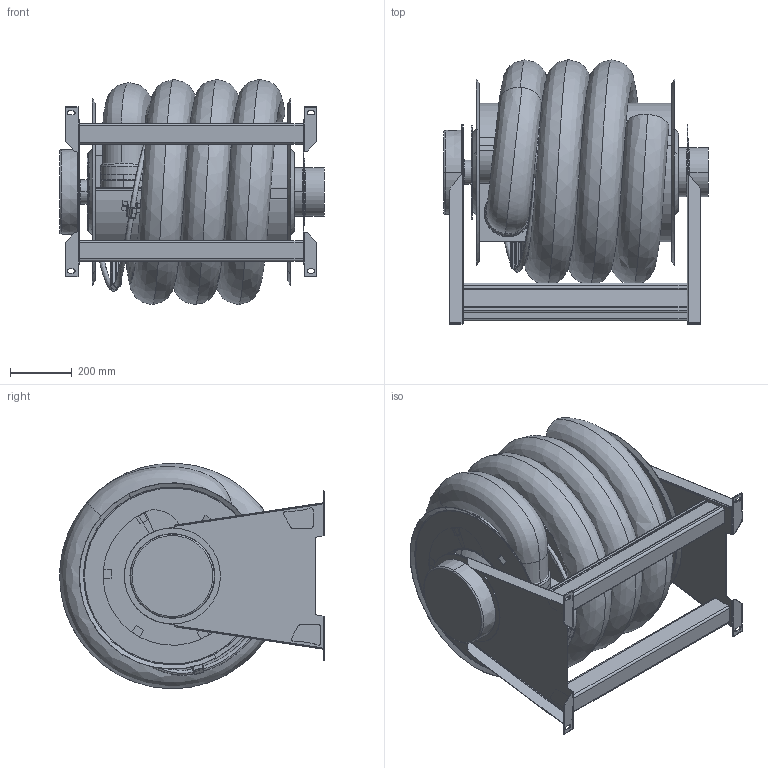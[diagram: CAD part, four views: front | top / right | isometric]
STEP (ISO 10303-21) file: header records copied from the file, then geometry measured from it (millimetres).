
FILE_DESCRIPTION((''),'2;1');
FILE_NAME('ASE_65_125-75_SW0001','2016-12-15T',('Martin Eriksson'),(''),'CREO PARAMETRIC BY PTC INC, 2016130','CREO PARAMETRIC BY PTC INC, 2016130','');
FILE_SCHEMA(('AUTOMOTIVE_DESIGN { 1 0 10303 214 1 1 1 1 }'));
Length unit declared in the file: millimetre
Products named in the file (1): ASE_65_125-75_SW0001
Bounding box: 853.5 x 853.42 x 726.82 mm (x, y, z)
Surface area: 6903329.1 mm2 (no closed solid volume)
Topology: 0 solids, 28 shells, 398 faces, 1267 edges, 881 vertices
Faces by surface type: plane 202, cylinder 114, torus 31, bspline 29, cone 22
Entity records: 21897 total; most frequent: CARTESIAN_POINT 8354, DIRECTION 2357, ORIENTED_EDGE 1956, EDGE_CURVE 1267, VERTEX_POINT 881, VECTOR 815, LINE 815, AXIS2_PLACEMENT_3D 771
